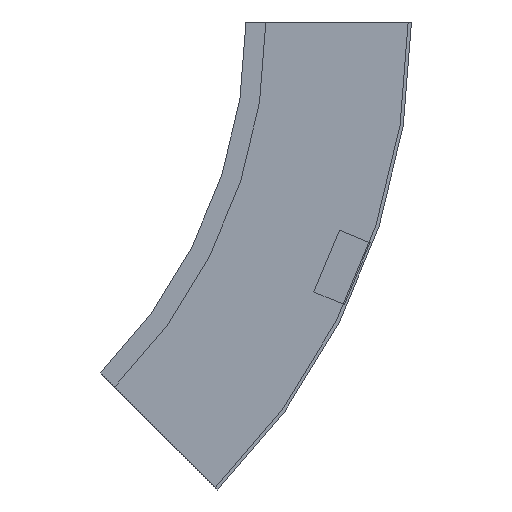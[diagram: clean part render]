
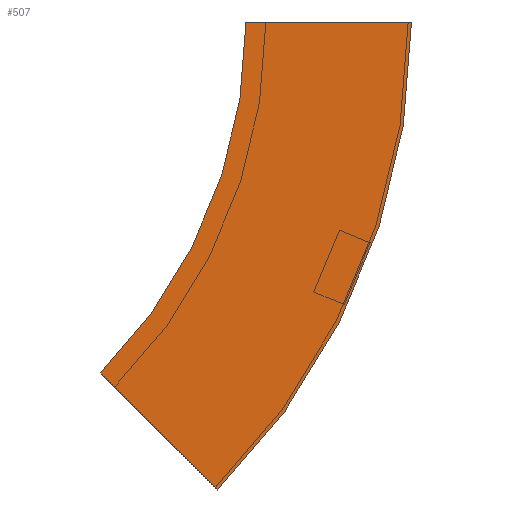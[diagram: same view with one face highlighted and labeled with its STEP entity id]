
A CAD part, left-side view. The second image highlights one B-rep face of the part: STEP entity #507.
In plain terms, the highlighted planar face has unit normal (-1, 0, 0) as drawn and (1, 0, 0) by its records, which use the part's own axes.
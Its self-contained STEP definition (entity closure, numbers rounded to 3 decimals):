
#5 = EDGE_CURVE ( 'NONE', #539, #263, #360, .T. ) ;
#8 = EDGE_CURVE ( 'NONE', #166, #319, #475, .T. ) ;
#15 = ORIENTED_EDGE ( 'NONE', *, *, #5, .T. ) ;
#21 = EDGE_LOOP ( 'NONE', ( #221, #297, #15, #480 ) ) ;
#26 = DIRECTION ( 'NONE',  ( 1., 0., 0. ) ) ;
#67 = DIRECTION ( 'NONE',  ( 1., 0., 0. ) ) ;
#73 = DIRECTION ( 'NONE',  ( 0., 1., 0. ) ) ;
#100 = EDGE_CURVE ( 'NONE', #263, #319, #373, .T. ) ;
#118 = AXIS2_PLACEMENT_3D ( 'NONE', #424, #67, #511 ) ;
#130 = CARTESIAN_POINT ( 'NONE',  ( 0., 87.868, -212.132 ) ) ;
#141 = AXIS2_PLACEMENT_3D ( 'NONE', #242, #26, #200 ) ;
#155 = AXIS2_PLACEMENT_3D ( 'NONE', #175, #217, #394 ) ;
#166 = VERTEX_POINT ( 'NONE', #199 ) ;
#168 = VECTOR ( 'NONE', #73, 1000. ) ;
#175 = CARTESIAN_POINT ( 'NONE',  ( 0., -100., 0. ) ) ;
#179 = CARTESIAN_POINT ( 'NONE',  ( 0., -100., 0. ) ) ;
#194 = VECTOR ( 'NONE', #517, 1000. ) ;
#199 = CARTESIAN_POINT ( 'NONE',  ( 0., 0., 0. ) ) ;
#200 = DIRECTION ( 'NONE',  ( 0., -1., 0. ) ) ;
#217 = DIRECTION ( 'NONE',  ( -1., 0., 0. ) ) ;
#221 = ORIENTED_EDGE ( 'NONE', *, *, #8, .F. ) ;
#242 = CARTESIAN_POINT ( 'NONE',  ( 0., 300., 0. ) ) ;
#263 = VERTEX_POINT ( 'NONE', #522 ) ;
#273 = FACE_OUTER_BOUND ( 'NONE', #21, .T. ) ;
#287 = EDGE_CURVE ( 'NONE', #539, #166, #466, .T. ) ;
#297 = ORIENTED_EDGE ( 'NONE', *, *, #287, .F. ) ;
#319 = VERTEX_POINT ( 'NONE', #130 ) ;
#339 = CARTESIAN_POINT ( 'NONE',  ( 0., 17.157, -282.843 ) ) ;
#360 = CIRCLE ( 'NONE', #118, 400. ) ;
#373 = LINE ( 'NONE', #339, #194 ) ;
#392 = CARTESIAN_POINT ( 'NONE',  ( 0., -100., 0. ) ) ;
#394 = DIRECTION ( 'NONE',  ( 0., 0., 1. ) ) ;
#424 = CARTESIAN_POINT ( 'NONE',  ( 0., 300., 0. ) ) ;
#442 = PLANE ( 'NONE',  #155 ) ;
#466 = LINE ( 'NONE', #392, #168 ) ;
#475 = CIRCLE ( 'NONE', #141, 300. ) ;
#480 = ORIENTED_EDGE ( 'NONE', *, *, #100, .T. ) ;
#507 = ADVANCED_FACE ( 'NONE', ( #273 ), #442, .F. ) ;
#511 = DIRECTION ( 'NONE',  ( 0., -1., 0. ) ) ;
#517 = DIRECTION ( 'NONE',  ( 0., 0.707, 0.707 ) ) ;
#522 = CARTESIAN_POINT ( 'NONE',  ( 0., 17.157, -282.843 ) ) ;
#539 = VERTEX_POINT ( 'NONE', #179 ) ;
